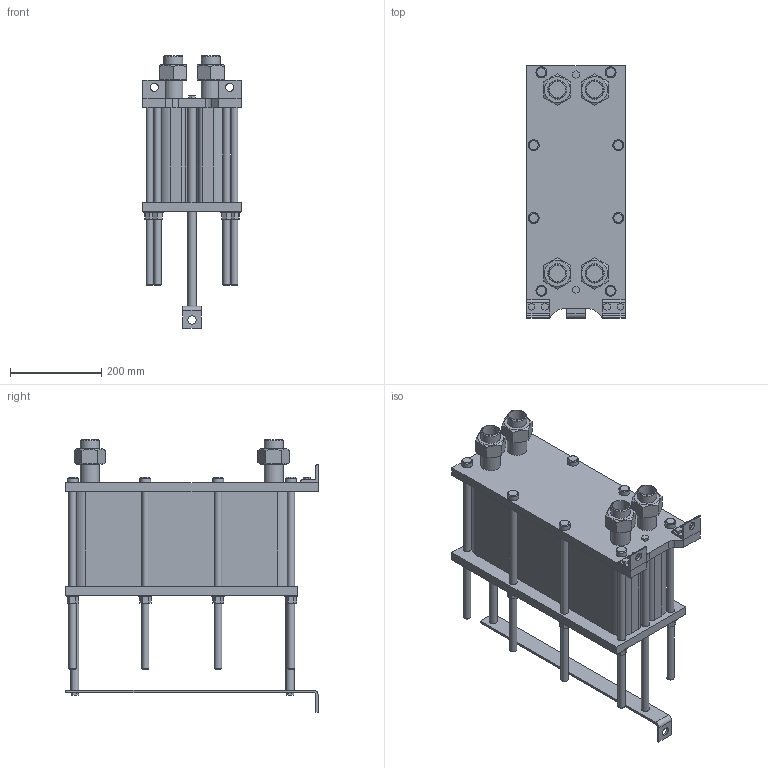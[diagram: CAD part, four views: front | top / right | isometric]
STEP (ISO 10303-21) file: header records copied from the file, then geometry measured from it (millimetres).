
FILE_DESCRIPTION(/* description */ (''),/* implementation_level */ '2;1');
FILE_NAME(/* name */ 'C:\Users\zhuro\Desktop\ENCO\TO\ЭН-004\ЭН-0,5-004-67-1.stp',/* time_stamp */ '2022-06-06T10:48:49+03:00',/* author */ ('zhuro'),/* organization */ (''),/* preprocessor_version */ 'ST-DEVELOPER v18.1',/* originating_system */ 'Autodesk Inventor 2022',/* authorisation */ '');
FILE_SCHEMA (('AUTOMOTIVE_DESIGN { 1 0 10303 214 3 1 1 }'));
Length unit declared in the file: millimetre
Products named in the file (1): ЭН-0,5-004-67-1
Bounding box: 216 x 555 x 598.6 mm (x, y, z)
Volume: 21215386.2 mm3; surface area: 1408587.4 mm2
Topology: 40 solids, 40 shells, 403 faces, 865 edges, 574 vertices
Faces by surface type: plane 272, cylinder 103, cone 28
Full cylindrical faces by diameter (mm): 10 x4, 16 x16, 18 x29, 20 x2, 24 x8, 28 x8, 36.3 x5, 42.3 x9
Entity records: 11137 total; most frequent: CARTESIAN_POINT 1939, DIRECTION 1879, ORIENTED_EDGE 1730, EDGE_CURVE 865, AXIS2_PLACEMENT_3D 658, VERTEX_POINT 574, LINE 563, VECTOR 563
